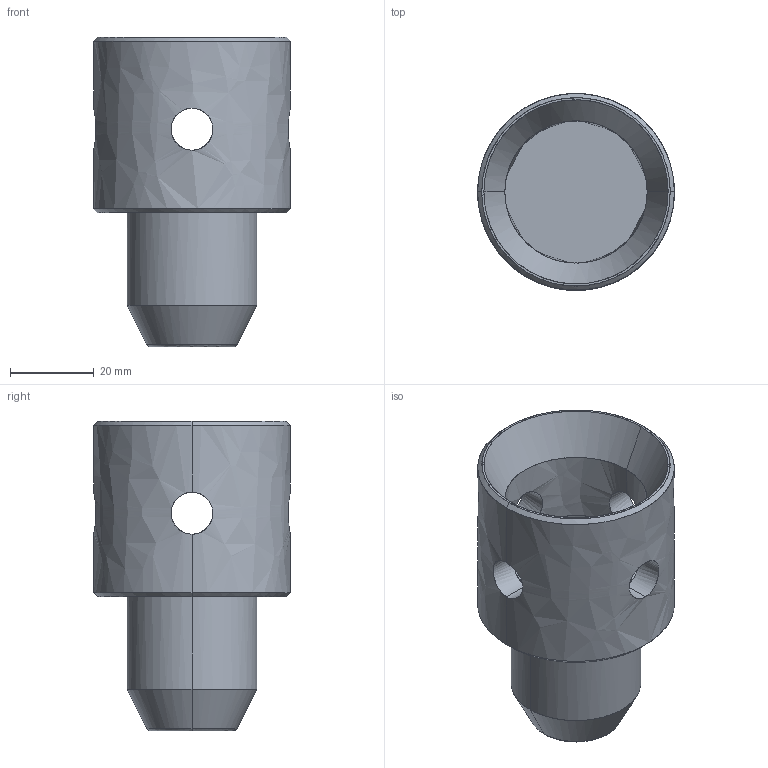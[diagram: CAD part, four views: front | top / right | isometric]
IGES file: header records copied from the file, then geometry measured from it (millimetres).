
Global section: file name: E:\UnigraphicsGraphicData\MISUMI_PRESS-PARTS\IGES\3d_kpb32_07044_r00.igs; native system: NX V5.0; preprocessor: UGS NX IGES V5.0; author: MISUMI; date: 20110105.161141; units: millimetre
Bounding box: 47 x 47 x 74 mm (x, y, z)
Surface area: 15556 mm2 (no closed solid volume)
Topology: 0 solids, 0 shells, 32 faces, 318 edges, 316 vertices
Faces by surface type: bspline 32
